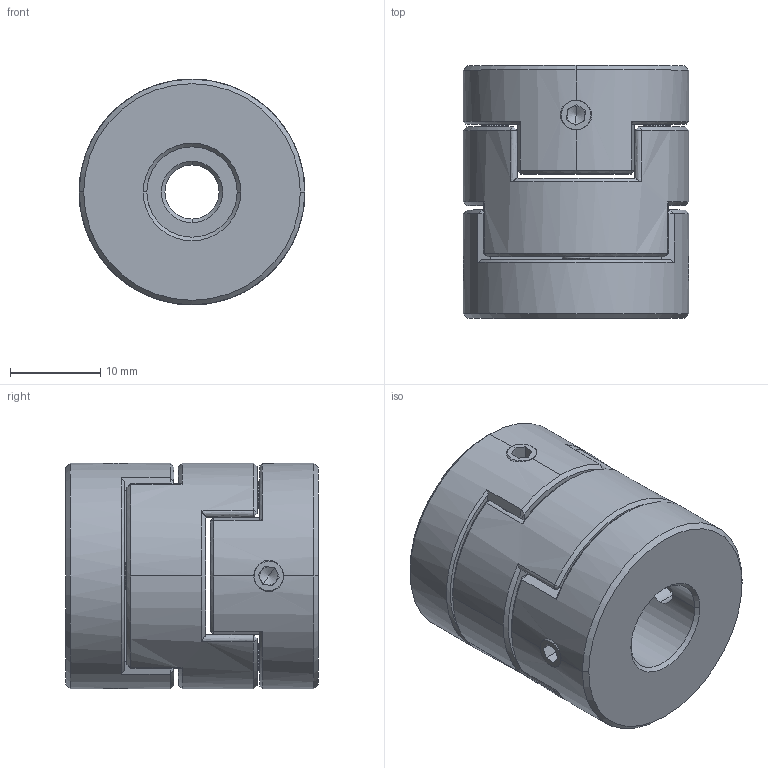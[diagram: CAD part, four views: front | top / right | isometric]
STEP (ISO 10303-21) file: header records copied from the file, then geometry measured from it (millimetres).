
FILE_DESCRIPTION (( 'STEP AP203' ), '1' );
FILE_NAME ('LZ-D-D25L28-6-10.STEP', '2021-10-30T02:11:46', ( '' ), ( '' ), 'SwSTEP 2.0', 'SolidWorks 2018', '' );
FILE_SCHEMA (( 'CONFIG_CONTROL_DESIGN' ));
Length unit declared in the file: millimetre
Products named in the file (1): LZ-D-D25L28-6-10
Bounding box: 25 x 28 x 25 mm (x, y, z)
Volume: 11460 mm3; surface area: 5542.6 mm2
Topology: 1 solids, 1 shells, 218 faces, 574 edges, 348 vertices
Faces by surface type: plane 88, cone 54, bspline 50, cylinder 26
Entity records: 9882 total; most frequent: CARTESIAN_POINT 4958, ORIENTED_EDGE 1132, DIRECTION 834, EDGE_CURVE 566, VERTEX_POINT 348, AXIS2_PLACEMENT_3D 303, EDGE_LOOP 234, LINE 228
